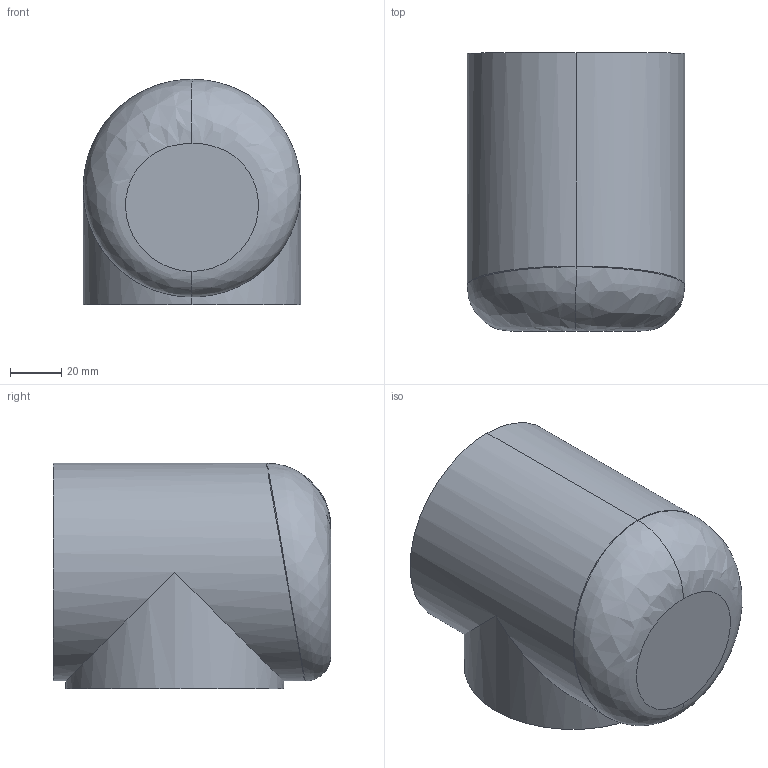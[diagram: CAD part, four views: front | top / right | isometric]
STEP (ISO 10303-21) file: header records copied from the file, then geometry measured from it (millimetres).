
FILE_DESCRIPTION (( 'STEP AP214' ), '1' );
FILE_NAME ('LINK4.STEP', '2020-09-20T14:01:30', ( '' ), ( '' ), 'SwSTEP 2.0', 'SolidWorks 2019', '' );
FILE_SCHEMA (( 'AUTOMOTIVE_DESIGN' ));
Length unit declared in the file: millimetre
Products named in the file (2): wrist2; LINK4
Assembly tree (1 placements, depth 2):
  LINK4
    wrist2
Bounding box: 85 x 108.5 x 88 mm (x, y, z)
Volume: 369505.4 mm3; surface area: 66726.9 mm2
Topology: 2 solids, 2 shells, 18 faces, 40 edges, 26 vertices
Faces by surface type: cylinder 10, plane 6, bspline 2
Entity records: 1161 total; most frequent: CARTESIAN_POINT 730, ORIENTED_EDGE 80, DIRECTION 72, EDGE_CURVE 40, AXIS2_PLACEMENT_3D 30, VERTEX_POINT 26, EDGE_LOOP 20, ADVANCED_FACE 18
